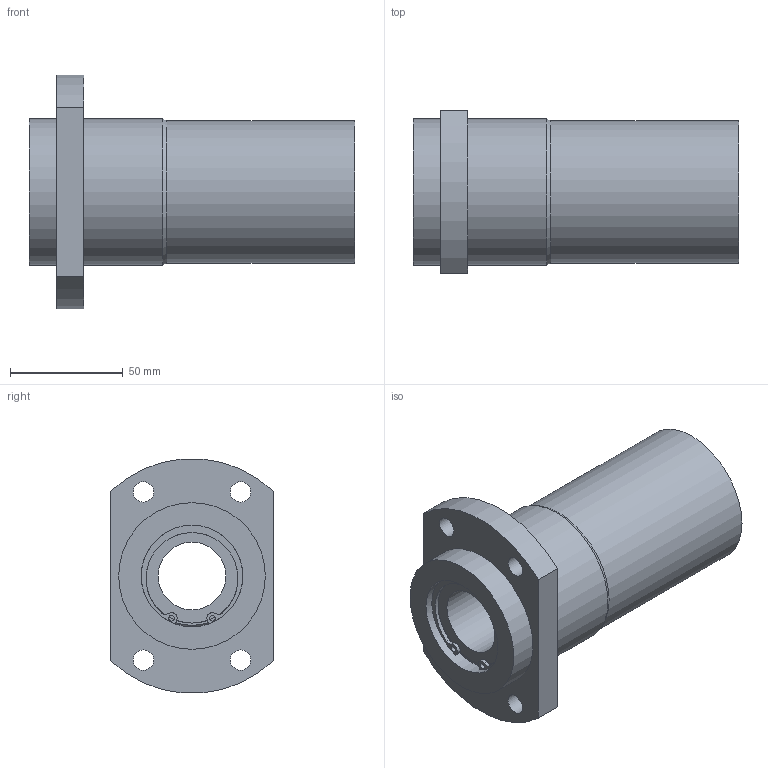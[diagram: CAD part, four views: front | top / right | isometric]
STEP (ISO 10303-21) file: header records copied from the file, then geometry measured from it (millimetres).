
FILE_DESCRIPTION((''),'2;1');
FILE_NAME('C:\Documents and Settings\土屋\My Documents\土屋移動用フォルダ\製品 (図面)\カタログ用3D\変換ファイル\OZAK_3D-CAD(STEP形式)\Part1.-Linear Bearings_ﾘﾆｱﾍﾞｱﾘﾝｸﾞ\09_Maintenance Free_ﾒｲﾝﾃﾅﾝｽﾌﾘｰ\L2017-09-22T13:34:02','2017-09-22T13:34:02',('y'),(''),'Autodesk Inventor 11','Autodesk Inventor 11','');
FILE_SCHEMA(('AUTOMOTIVE_DESIGN { 1 0 10303 214 1 1 1 1 }'));
Length unit declared in the file: millimetre
Products named in the file (1): LFWB30MF
Bounding box: 144 x 72 x 103.62 mm (x, y, z)
Volume: 388867.1 mm3; surface area: 60172 mm2
Topology: 1 solids, 3 shells, 71 faces, 199 edges, 122 vertices
Faces by surface type: plane 29, cylinder 25, bspline 14, torus 2, cone 1
Full cylindrical faces by diameter (mm): 2.5 x2, 9 x4, 30 x1, 41.7 x2, 43 x2, 45 x4, 63 x1, 65 x2
Entity records: 2228 total; most frequent: CARTESIAN_POINT 476, DIRECTION 396, ORIENTED_EDGE 316, AXIS2_PLACEMENT_3D 180, EDGE_CURVE 158, CIRCLE 122, EDGE_LOOP 118, VERTEX_POINT 106
